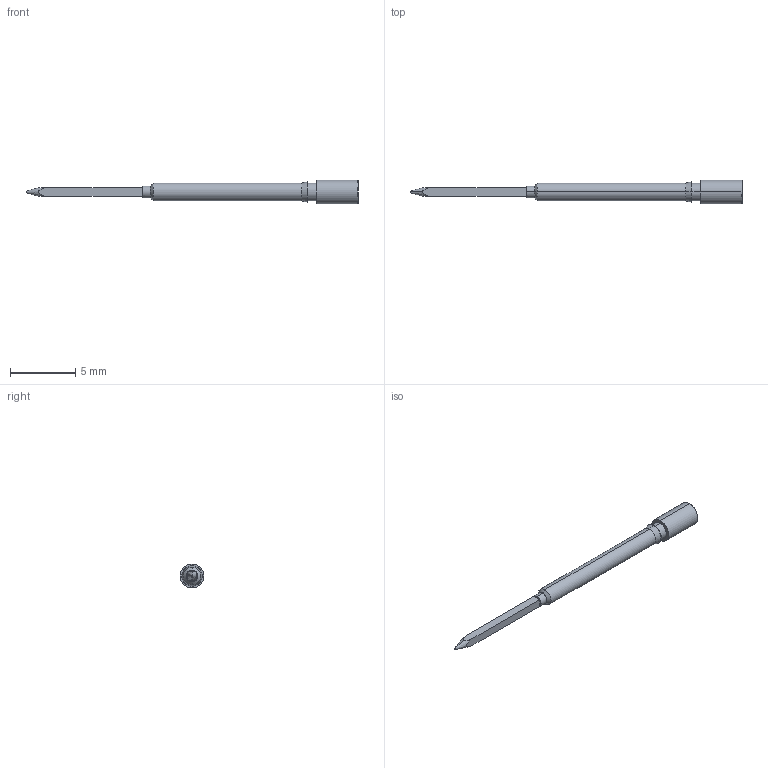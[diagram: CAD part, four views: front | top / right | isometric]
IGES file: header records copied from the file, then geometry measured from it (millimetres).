
Start section: SolidWorks IGES file using analytic representation for surfaces
Global section: file name: Z:\probe solid model mockups\Solidworks models\IGES Files\SIP-90-5.IGS; native system: SolidWorks 2006 by SolidWorks Corporation; preprocessor: SolidWorks 2006 by SolidWorks Corporation; author: tsakatani; date: 080102.110748; units: inch
Bounding box: 25.4 x 1.83 x 1.83 mm (x, y, z)
Surface area: 100 mm2 (no closed solid volume)
Topology: 0 solids, 0 shells, 28 faces, 282 edges, 282 vertices
Faces by surface type: revolution 16, bspline 12
